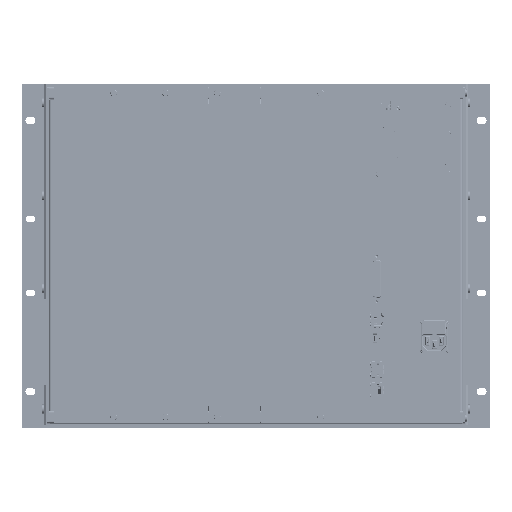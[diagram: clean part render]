
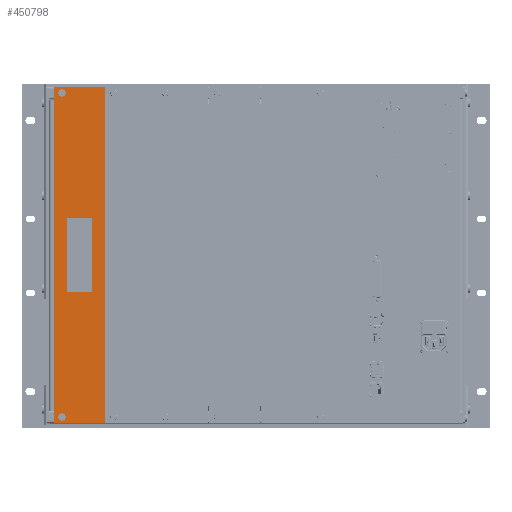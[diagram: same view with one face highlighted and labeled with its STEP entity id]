
A CAD part, top view. The second image highlights one B-rep face of the part: STEP entity #450798.
In plain terms, the highlighted planar face has unit normal (0, 0, 1) as drawn and (0, 1, 0) by its records, which use the part's own axes.
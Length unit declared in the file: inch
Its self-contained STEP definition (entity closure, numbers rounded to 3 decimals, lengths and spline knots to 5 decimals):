
#450607=DIRECTION('',(0.,0.,1.));
#450608=VECTOR('',#450607,2.08);
#450609=CARTESIAN_POINT('',(-6.82,0.062,-1.04));
#450610=LINE('',#450609,#450608);
#450611=DIRECTION('',(-1.,0.,0.));
#450612=VECTOR('',#450611,13.64);
#450613=CARTESIAN_POINT('',(6.82,0.062,-1.04));
#450614=LINE('',#450613,#450612);
#450615=DIRECTION('',(0.,0.,-1.));
#450616=VECTOR('',#450615,2.08);
#450617=CARTESIAN_POINT('',(6.82,0.062,1.04));
#450618=LINE('',#450617,#450616);
#450619=DIRECTION('',(1.,0.,0.));
#450620=VECTOR('',#450619,13.64);
#450621=CARTESIAN_POINT('',(-6.82,0.062,1.04));
#450622=LINE('',#450621,#450620);
#450623=CARTESIAN_POINT('',(-6.57,0.062,-0.7));
#450624=DIRECTION('',(0.,1.,0.));
#450625=DIRECTION('',(1.,0.,0.));
#450626=AXIS2_PLACEMENT_3D('',#450623,#450624,#450625);
#450628=CARTESIAN_POINT('',(-6.57,0.062,-0.7));
#450629=DIRECTION('',(0.,1.,0.));
#450630=DIRECTION('',(-1.,0.,0.));
#450631=AXIS2_PLACEMENT_3D('',#450628,#450629,#450630);
#450633=CARTESIAN_POINT('',(6.57,0.062,-0.7));
#450634=DIRECTION('',(0.,1.,0.));
#450635=DIRECTION('',(1.,0.,0.));
#450636=AXIS2_PLACEMENT_3D('',#450633,#450634,#450635);
#450638=CARTESIAN_POINT('',(6.57,0.062,-0.7));
#450639=DIRECTION('',(0.,1.,0.));
#450640=DIRECTION('',(-1.,0.,0.));
#450641=AXIS2_PLACEMENT_3D('',#450638,#450639,#450640);
#450667=CARTESIAN_POINT('',(-6.82,0.062,-1.04));
#450668=CARTESIAN_POINT('',(-6.82,0.062,1.04));
#450669=VERTEX_POINT('',#450667);
#450670=VERTEX_POINT('',#450668);
#450671=CARTESIAN_POINT('',(6.82,0.062,1.04));
#450672=VERTEX_POINT('',#450671);
#450673=CARTESIAN_POINT('',(6.82,0.062,-1.04));
#450674=VERTEX_POINT('',#450673);
#450683=CARTESIAN_POINT('',(-6.492,0.062,-0.7));
#450684=CARTESIAN_POINT('',(-6.648,0.062,-0.7));
#450685=VERTEX_POINT('',#450683);
#450686=VERTEX_POINT('',#450684);
#450687=CARTESIAN_POINT('',(6.648,0.062,-0.7));
#450688=CARTESIAN_POINT('',(6.492,0.062,-0.7));
#450689=VERTEX_POINT('',#450687);
#450690=VERTEX_POINT('',#450688);
#450775=CARTESIAN_POINT('',(0.,0.062,0.));
#450776=DIRECTION('',(0.,1.,0.));
#450777=DIRECTION('',(1.,0.,0.));
#450778=AXIS2_PLACEMENT_3D('',#450775,#450776,#450777);
#450779=PLANE('',#450778);
#450780=ORIENTED_EDGE('',*,*,#450727,.F.);
#450781=ORIENTED_EDGE('',*,*,#450742,.F.);
#450782=ORIENTED_EDGE('',*,*,#450756,.F.);
#450783=ORIENTED_EDGE('',*,*,#450769,.F.);
#450784=EDGE_LOOP('',(#450780,#450781,#450782,#450783));
#450785=FACE_OUTER_BOUND('',#450784,.F.);
#450787=ORIENTED_EDGE('',*,*,#450786,.T.);
#450789=ORIENTED_EDGE('',*,*,#450788,.T.);
#450790=EDGE_LOOP('',(#450787,#450789));
#450791=FACE_BOUND('',#450790,.F.);
#450793=ORIENTED_EDGE('',*,*,#450792,.T.);
#450795=ORIENTED_EDGE('',*,*,#450794,.T.);
#450796=EDGE_LOOP('',(#450793,#450795));
#450797=FACE_BOUND('',#450796,.F.);
#450798=ADVANCED_FACE('',(#450785,#450791,#450797),#450779,.T.);
#450627=CIRCLE('',#450626,0.078);
#450632=CIRCLE('',#450631,0.078);
#450637=CIRCLE('',#450636,0.078);
#450642=CIRCLE('',#450641,0.078);
#450727=EDGE_CURVE('',#450669,#450670,#450610,.T.);
#450742=EDGE_CURVE('',#450674,#450669,#450614,.T.);
#450756=EDGE_CURVE('',#450672,#450674,#450618,.T.);
#450769=EDGE_CURVE('',#450670,#450672,#450622,.T.);
#450786=EDGE_CURVE('',#450685,#450686,#450627,.T.);
#450788=EDGE_CURVE('',#450686,#450685,#450632,.T.);
#450792=EDGE_CURVE('',#450689,#450690,#450637,.T.);
#450794=EDGE_CURVE('',#450690,#450689,#450642,.T.);
